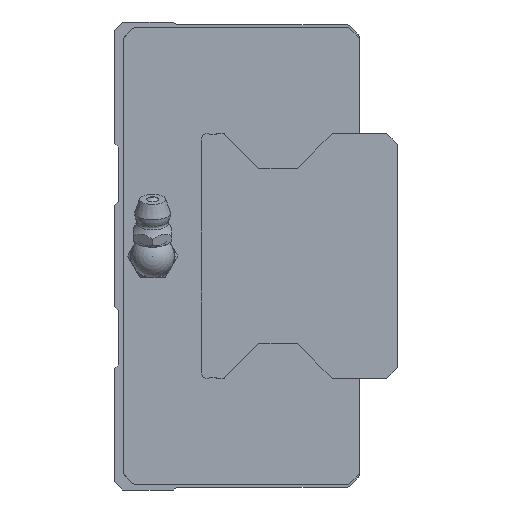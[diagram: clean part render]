
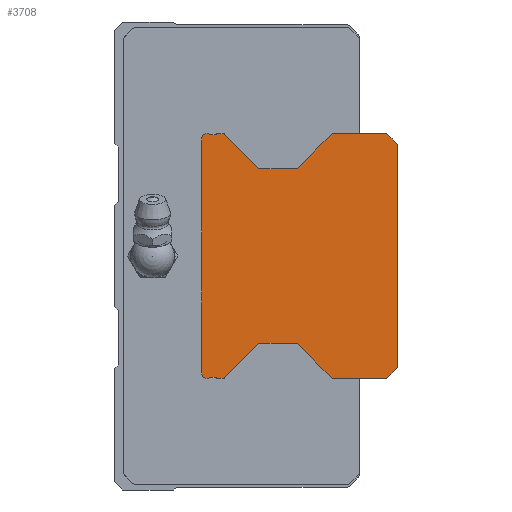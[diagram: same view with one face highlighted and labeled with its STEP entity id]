
A CAD part, left-side view. The second image highlights one B-rep face of the part: STEP entity #3708.
In plain terms, the highlighted planar face has unit normal (-1, 0, 0).
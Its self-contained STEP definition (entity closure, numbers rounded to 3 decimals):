
#108=CIRCLE('',#3948,0.3);
#110=CIRCLE('',#3952,0.3);
#112=CIRCLE('',#3956,0.3);
#125=CIRCLE('',#3977,0.3);
#127=CIRCLE('',#3981,0.3);
#129=CIRCLE('',#3985,0.3);
#131=CIRCLE('',#3989,0.3);
#133=CIRCLE('',#3994,1.);
#146=CIRCLE('',#4009,1.);
#148=CIRCLE('',#4014,0.3);
#495=ORIENTED_EDGE('',*,*,#1343,.F.);
#496=ORIENTED_EDGE('',*,*,#1447,.F.);
#497=ORIENTED_EDGE('',*,*,#1444,.F.);
#498=ORIENTED_EDGE('',*,*,#1441,.F.);
#499=ORIENTED_EDGE('',*,*,#1438,.F.);
#500=ORIENTED_EDGE('',*,*,#1435,.F.);
#501=ORIENTED_EDGE('',*,*,#1421,.F.);
#502=ORIENTED_EDGE('',*,*,#1418,.F.);
#503=ORIENTED_EDGE('',*,*,#1415,.F.);
#504=ORIENTED_EDGE('',*,*,#1412,.F.);
#505=ORIENTED_EDGE('',*,*,#1409,.F.);
#506=ORIENTED_EDGE('',*,*,#1406,.F.);
#507=ORIENTED_EDGE('',*,*,#1403,.F.);
#508=ORIENTED_EDGE('',*,*,#1400,.T.);
#509=ORIENTED_EDGE('',*,*,#1397,.F.);
#510=ORIENTED_EDGE('',*,*,#1394,.T.);
#511=ORIENTED_EDGE('',*,*,#1391,.F.);
#512=ORIENTED_EDGE('',*,*,#1388,.F.);
#513=ORIENTED_EDGE('',*,*,#1385,.F.);
#514=ORIENTED_EDGE('',*,*,#1382,.F.);
#515=ORIENTED_EDGE('',*,*,#1368,.F.);
#516=ORIENTED_EDGE('',*,*,#1365,.F.);
#517=ORIENTED_EDGE('',*,*,#1362,.F.);
#518=ORIENTED_EDGE('',*,*,#1359,.T.);
#519=ORIENTED_EDGE('',*,*,#1356,.F.);
#520=ORIENTED_EDGE('',*,*,#1353,.T.);
#521=ORIENTED_EDGE('',*,*,#1350,.F.);
#522=ORIENTED_EDGE('',*,*,#1347,.F.);
#1343=EDGE_CURVE('',#1848,#1849,#2225,.T.);
#1347=EDGE_CURVE('',#1849,#1852,#108,.T.);
#1350=EDGE_CURVE('',#1852,#1854,#2230,.T.);
#1353=EDGE_CURVE('',#1856,#1854,#110,.T.);
#1356=EDGE_CURVE('',#1856,#1858,#2234,.T.);
#1359=EDGE_CURVE('',#1860,#1858,#112,.T.);
#1362=EDGE_CURVE('',#1860,#1862,#2238,.T.);
#1365=EDGE_CURVE('',#1862,#1864,#2241,.T.);
#1368=EDGE_CURVE('',#1864,#1866,#2244,.T.);
#1382=EDGE_CURVE('',#1866,#1879,#2247,.T.);
#1385=EDGE_CURVE('',#1879,#1881,#2250,.T.);
#1388=EDGE_CURVE('',#1881,#1883,#2253,.T.);
#1391=EDGE_CURVE('',#1883,#1885,#2256,.T.);
#1394=EDGE_CURVE('',#1887,#1885,#125,.T.);
#1397=EDGE_CURVE('',#1887,#1889,#2260,.T.);
#1400=EDGE_CURVE('',#1891,#1889,#127,.T.);
#1403=EDGE_CURVE('',#1891,#1893,#2264,.T.);
#1406=EDGE_CURVE('',#1893,#1895,#129,.T.);
#1409=EDGE_CURVE('',#1895,#1897,#2268,.T.);
#1412=EDGE_CURVE('',#1897,#1899,#131,.T.);
#1415=EDGE_CURVE('',#1899,#1901,#2272,.T.);
#1418=EDGE_CURVE('',#1901,#1903,#2275,.T.);
#1421=EDGE_CURVE('',#1903,#1905,#133,.T.);
#1435=EDGE_CURVE('',#1905,#1918,#2279,.T.);
#1438=EDGE_CURVE('',#1918,#1920,#146,.T.);
#1441=EDGE_CURVE('',#1920,#1922,#2283,.T.);
#1444=EDGE_CURVE('',#1922,#1924,#2286,.T.);
#1447=EDGE_CURVE('',#1924,#1848,#148,.T.);
#1848=VERTEX_POINT('',#5453);
#1849=VERTEX_POINT('',#5454);
#1852=VERTEX_POINT('',#5462);
#1854=VERTEX_POINT('',#5468);
#1856=VERTEX_POINT('',#5474);
#1858=VERTEX_POINT('',#5480);
#1860=VERTEX_POINT('',#5486);
#1862=VERTEX_POINT('',#5492);
#1864=VERTEX_POINT('',#5498);
#1866=VERTEX_POINT('',#5504);
#1879=VERTEX_POINT('',#5532);
#1881=VERTEX_POINT('',#5538);
#1883=VERTEX_POINT('',#5544);
#1885=VERTEX_POINT('',#5550);
#1887=VERTEX_POINT('',#5556);
#1889=VERTEX_POINT('',#5562);
#1891=VERTEX_POINT('',#5568);
#1893=VERTEX_POINT('',#5574);
#1895=VERTEX_POINT('',#5580);
#1897=VERTEX_POINT('',#5586);
#1899=VERTEX_POINT('',#5592);
#1901=VERTEX_POINT('',#5598);
#1903=VERTEX_POINT('',#5604);
#1905=VERTEX_POINT('',#5610);
#1918=VERTEX_POINT('',#5638);
#1920=VERTEX_POINT('',#5644);
#1922=VERTEX_POINT('',#5650);
#1924=VERTEX_POINT('',#5656);
#2225=LINE('',#5452,#2545);
#2230=LINE('',#5467,#2550);
#2234=LINE('',#5479,#2554);
#2238=LINE('',#5491,#2558);
#2241=LINE('',#5497,#2561);
#2244=LINE('',#5503,#2564);
#2247=LINE('',#5531,#2567);
#2250=LINE('',#5537,#2570);
#2253=LINE('',#5543,#2573);
#2256=LINE('',#5549,#2576);
#2260=LINE('',#5561,#2580);
#2264=LINE('',#5573,#2584);
#2268=LINE('',#5585,#2588);
#2272=LINE('',#5597,#2592);
#2275=LINE('',#5603,#2595);
#2279=LINE('',#5637,#2599);
#2283=LINE('',#5649,#2603);
#2286=LINE('',#5655,#2606);
#2545=VECTOR('',#4344,1000.);
#2550=VECTOR('',#4357,1000.);
#2554=VECTOR('',#4369,1000.);
#2558=VECTOR('',#4381,1000.);
#2561=VECTOR('',#4386,1000.);
#2564=VECTOR('',#4391,1000.);
#2567=VECTOR('',#4418,1000.);
#2570=VECTOR('',#4423,1000.);
#2573=VECTOR('',#4428,1000.);
#2576=VECTOR('',#4433,1000.);
#2580=VECTOR('',#4445,1000.);
#2584=VECTOR('',#4457,1000.);
#2588=VECTOR('',#4469,1000.);
#2592=VECTOR('',#4481,1000.);
#2595=VECTOR('',#4486,1000.);
#2599=VECTOR('',#4520,1000.);
#2603=VECTOR('',#4532,1000.);
#2606=VECTOR('',#4537,1000.);
#2916=EDGE_LOOP('',(#495,#496,#497,#498,#499,#500,#501,#502,#503,#504,#505,
#506,#507,#508,#509,#510,#511,#512,#513,#514,#515,#516,#517,#518,#519,#520,
#521,#522));
#3253=FACE_BOUND('',#2916,.T.);
#3569=PLANE('',#4017);
#3708=ADVANCED_FACE('',(#3253),#3569,.F.);
#3948=AXIS2_PLACEMENT_3D('',#5461,#4350,#4351);
#3952=AXIS2_PLACEMENT_3D('',#5473,#4362,#4363);
#3956=AXIS2_PLACEMENT_3D('',#5485,#4374,#4375);
#3977=AXIS2_PLACEMENT_3D('',#5555,#4438,#4439);
#3981=AXIS2_PLACEMENT_3D('',#5567,#4450,#4451);
#3985=AXIS2_PLACEMENT_3D('',#5579,#4462,#4463);
#3989=AXIS2_PLACEMENT_3D('',#5591,#4474,#4475);
#3994=AXIS2_PLACEMENT_3D('',#5609,#4491,#4492);
#4009=AXIS2_PLACEMENT_3D('',#5643,#4525,#4526);
#4014=AXIS2_PLACEMENT_3D('',#5661,#4542,#4543);
#4017=AXIS2_PLACEMENT_3D('',#5664,#4548,#4549);
#4344=DIRECTION('',(0.,-1.,0.));
#4350=DIRECTION('',(1.,0.,0.));
#4351=DIRECTION('',(0.,0.,-1.));
#4357=DIRECTION('',(0.,-0.707,-0.707));
#4362=DIRECTION('',(1.,0.,0.));
#4363=DIRECTION('',(0.,0.,-1.));
#4369=DIRECTION('',(0.,-1.,0.));
#4374=DIRECTION('',(1.,0.,0.));
#4375=DIRECTION('',(0.,0.,-1.));
#4381=DIRECTION('',(0.,-0.707,0.707));
#4386=DIRECTION('',(0.,-1.,0.));
#4391=DIRECTION('',(0.,-0.707,-0.707));
#4418=DIRECTION('',(0.,0.,-1.));
#4423=DIRECTION('',(0.,0.707,-0.707));
#4428=DIRECTION('',(0.,1.,0.));
#4433=DIRECTION('',(0.,0.707,0.707));
#4438=DIRECTION('',(1.,0.,0.));
#4439=DIRECTION('',(0.,0.,-1.));
#4445=DIRECTION('',(0.,1.,0.));
#4450=DIRECTION('',(1.,0.,0.));
#4451=DIRECTION('',(0.,0.,-1.));
#4457=DIRECTION('',(0.,0.707,-0.707));
#4462=DIRECTION('',(1.,0.,0.));
#4463=DIRECTION('',(0.,0.,-1.));
#4469=DIRECTION('',(0.,1.,0.));
#4474=DIRECTION('',(1.,0.,0.));
#4475=DIRECTION('',(0.,0.,-1.));
#4481=DIRECTION('',(0.,0.707,0.707));
#4486=DIRECTION('',(0.,1.,0.));
#4491=DIRECTION('',(1.,0.,0.));
#4492=DIRECTION('',(0.,0.,-1.));
#4520=DIRECTION('',(0.,0.,1.));
#4525=DIRECTION('',(1.,0.,0.));
#4526=DIRECTION('',(0.,0.,-1.));
#4532=DIRECTION('',(0.,-1.,0.));
#4537=DIRECTION('',(0.,-0.707,0.707));
#4542=DIRECTION('',(1.,0.,0.));
#4543=DIRECTION('',(0.,0.,-1.));
#4548=DIRECTION('',(1.,0.,0.));
#4549=DIRECTION('',(0.,0.,-1.));
#5452=CARTESIAN_POINT('',(-22.5,33.126,22.5));
#5453=CARTESIAN_POINT('',(-22.5,33.126,22.5));
#5454=CARTESIAN_POINT('',(-22.5,32.024,22.5));
#5461=CARTESIAN_POINT('',(-22.5,32.024,22.2));
#5462=CARTESIAN_POINT('',(-22.5,31.812,22.412));
#5467=CARTESIAN_POINT('',(-22.5,31.812,22.412));
#5468=CARTESIAN_POINT('',(-22.5,25.488,16.088));
#5473=CARTESIAN_POINT('',(-22.5,25.276,16.3));
#5474=CARTESIAN_POINT('',(-22.5,25.276,16.));
#5479=CARTESIAN_POINT('',(-22.5,25.276,16.));
#5480=CARTESIAN_POINT('',(-22.5,18.624,16.));
#5485=CARTESIAN_POINT('',(-22.5,18.624,16.3));
#5486=CARTESIAN_POINT('',(-22.5,18.412,16.088));
#5491=CARTESIAN_POINT('',(-22.5,18.412,16.088));
#5492=CARTESIAN_POINT('',(-22.5,12.,22.5));
#5497=CARTESIAN_POINT('',(-22.5,12.,22.5));
#5498=CARTESIAN_POINT('',(-22.5,2.,22.5));
#5503=CARTESIAN_POINT('',(-22.5,2.,22.5));
#5504=CARTESIAN_POINT('',(-22.5,0.,20.5));
#5531=CARTESIAN_POINT('',(-22.5,0.,20.5));
#5532=CARTESIAN_POINT('',(-22.5,0.,-20.5));
#5537=CARTESIAN_POINT('',(-22.5,0.,-20.5));
#5538=CARTESIAN_POINT('',(-22.5,2.,-22.5));
#5543=CARTESIAN_POINT('',(-22.5,2.,-22.5));
#5544=CARTESIAN_POINT('',(-22.5,12.,-22.5));
#5549=CARTESIAN_POINT('',(-22.5,12.,-22.5));
#5550=CARTESIAN_POINT('',(-22.5,18.412,-16.088));
#5555=CARTESIAN_POINT('',(-22.5,18.624,-16.3));
#5556=CARTESIAN_POINT('',(-22.5,18.624,-16.));
#5561=CARTESIAN_POINT('',(-22.5,18.624,-16.));
#5562=CARTESIAN_POINT('',(-22.5,25.276,-16.));
#5567=CARTESIAN_POINT('',(-22.5,25.276,-16.3));
#5568=CARTESIAN_POINT('',(-22.5,25.488,-16.088));
#5573=CARTESIAN_POINT('',(-22.5,25.488,-16.088));
#5574=CARTESIAN_POINT('',(-22.5,31.812,-22.412));
#5579=CARTESIAN_POINT('',(-22.5,32.024,-22.2));
#5580=CARTESIAN_POINT('',(-22.5,32.024,-22.5));
#5585=CARTESIAN_POINT('',(-22.5,32.024,-22.5));
#5586=CARTESIAN_POINT('',(-22.5,33.126,-22.5));
#5591=CARTESIAN_POINT('',(-22.5,33.126,-22.2));
#5592=CARTESIAN_POINT('',(-22.5,33.338,-22.412));
#5597=CARTESIAN_POINT('',(-22.5,33.338,-22.412));
#5598=CARTESIAN_POINT('',(-22.5,33.5,-22.25));
#5603=CARTESIAN_POINT('',(-22.5,33.5,-22.25));
#5604=CARTESIAN_POINT('',(-22.5,34.339,-22.25));
#5609=CARTESIAN_POINT('',(-22.5,35.,-21.5));
#5610=CARTESIAN_POINT('',(-22.5,36.,-21.5));
#5637=CARTESIAN_POINT('',(-22.5,36.,-21.5));
#5638=CARTESIAN_POINT('',(-22.5,36.,21.5));
#5643=CARTESIAN_POINT('',(-22.5,35.,21.5));
#5644=CARTESIAN_POINT('',(-22.5,34.339,22.25));
#5649=CARTESIAN_POINT('',(-22.5,34.339,22.25));
#5650=CARTESIAN_POINT('',(-22.5,33.5,22.25));
#5655=CARTESIAN_POINT('',(-22.5,33.5,22.25));
#5656=CARTESIAN_POINT('',(-22.5,33.338,22.412));
#5661=CARTESIAN_POINT('',(-22.5,33.126,22.2));
#5664=CARTESIAN_POINT('',(-22.5,32.024,22.2));
